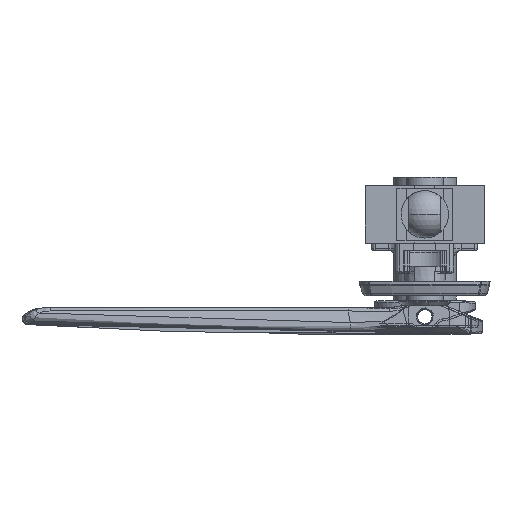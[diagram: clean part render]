
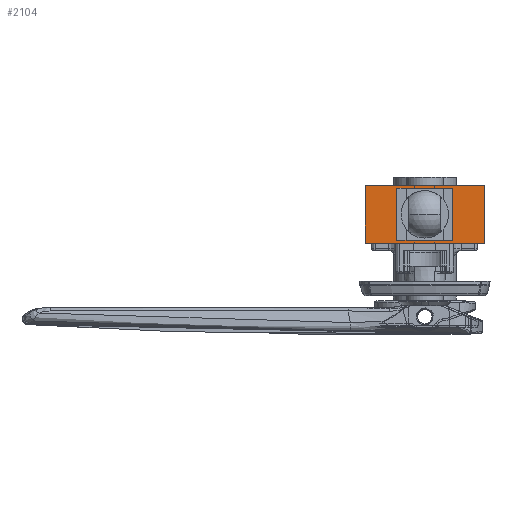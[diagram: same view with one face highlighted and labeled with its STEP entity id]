
A CAD part, front view. The second image highlights one B-rep face of the part: STEP entity #2104.
In plain terms, the highlighted planar face has unit normal (0, -1, 0).
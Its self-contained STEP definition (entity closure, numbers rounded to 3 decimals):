
#462 = FACE_BOUND ( 'NONE', #10740, .T. ) ;
#561 = AXIS2_PLACEMENT_3D ( 'NONE', #5912, #31136, #31459 ) ;
#2104 = ADVANCED_FACE ( 'NONE', ( #462, #8448 ), #13700, .F. ) ;
#2536 = VERTEX_POINT ( 'NONE', #6520 ) ;
#2925 = ORIENTED_EDGE ( 'NONE', *, *, #22070, .T. ) ;
#4205 = VECTOR ( 'NONE', #17920, 1000. ) ;
#4421 = CARTESIAN_POINT ( 'NONE',  ( 7., -199.25, 6.25 ) ) ;
#4612 = ORIENTED_EDGE ( 'NONE', *, *, #13247, .F. ) ;
#4625 = CARTESIAN_POINT ( 'NONE',  ( 7., -199.25, -6.25 ) ) ;
#5912 = CARTESIAN_POINT ( 'NONE',  ( -16., -199.25, 7.75 ) ) ;
#6069 = LINE ( 'NONE', #32489, #14794 ) ;
#6389 = CARTESIAN_POINT ( 'NONE',  ( 16., -199.25, -7.75 ) ) ;
#6520 = CARTESIAN_POINT ( 'NONE',  ( -7., -199.25, 6.25 ) ) ;
#7224 = LINE ( 'NONE', #27389, #32899 ) ;
#7526 = EDGE_CURVE ( 'NONE', #24038, #8666, #30482, .T. ) ;
#7958 = DIRECTION ( 'NONE',  ( -1., 0., 0. ) ) ;
#8176 = VERTEX_POINT ( 'NONE', #6389 ) ;
#8208 = VERTEX_POINT ( 'NONE', #14674 ) ;
#8448 = FACE_OUTER_BOUND ( 'NONE', #15889, .T. ) ;
#8666 = VERTEX_POINT ( 'NONE', #11620 ) ;
#8867 = LINE ( 'NONE', #29533, #23478 ) ;
#8961 = CARTESIAN_POINT ( 'NONE',  ( 7., -199.25, 6.25 ) ) ;
#9397 = VECTOR ( 'NONE', #17797, 1000. ) ;
#9589 = DIRECTION ( 'NONE',  ( 0., 0., -1. ) ) ;
#9656 = CARTESIAN_POINT ( 'NONE',  ( -16., -199.25, 7.75 ) ) ;
#10740 = EDGE_LOOP ( 'NONE', ( #23342, #32326, #30266, #30577 ) ) ;
#11620 = CARTESIAN_POINT ( 'NONE',  ( 16., -199.25, 7.75 ) ) ;
#12837 = LINE ( 'NONE', #23194, #4205 ) ;
#13247 = EDGE_CURVE ( 'NONE', #8666, #8176, #6069, .T. ) ;
#13700 = PLANE ( 'NONE',  #561 ) ;
#13945 = EDGE_CURVE ( 'NONE', #2536, #8208, #8867, .T. ) ;
#14674 = CARTESIAN_POINT ( 'NONE',  ( -7., -199.25, -6.25 ) ) ;
#14794 = VECTOR ( 'NONE', #16572, 1000. ) ;
#14860 = EDGE_CURVE ( 'NONE', #21861, #2536, #31157, .T. ) ;
#15506 = EDGE_CURVE ( 'NONE', #8208, #22583, #20336, .T. ) ;
#15889 = EDGE_LOOP ( 'NONE', ( #2925, #4612, #27190, #19854 ) ) ;
#16572 = DIRECTION ( 'NONE',  ( 0., 0., -1. ) ) ;
#17156 = DIRECTION ( 'NONE',  ( 0., 0., 1. ) ) ;
#17797 = DIRECTION ( 'NONE',  ( 1., 0., 0. ) ) ;
#17920 = DIRECTION ( 'NONE',  ( 1., 0., 0. ) ) ;
#19854 = ORIENTED_EDGE ( 'NONE', *, *, #22355, .T. ) ;
#19868 = LINE ( 'NONE', #4421, #20433 ) ;
#20224 = EDGE_CURVE ( 'NONE', #22583, #21861, #19868, .T. ) ;
#20336 = LINE ( 'NONE', #30176, #9397 ) ;
#20433 = VECTOR ( 'NONE', #17156, 1000. ) ;
#21861 = VERTEX_POINT ( 'NONE', #8961 ) ;
#22070 = EDGE_CURVE ( 'NONE', #27802, #8176, #12837, .T. ) ;
#22355 = EDGE_CURVE ( 'NONE', #24038, #27802, #7224, .T. ) ;
#22583 = VERTEX_POINT ( 'NONE', #4625 ) ;
#23194 = CARTESIAN_POINT ( 'NONE',  ( -16., -199.25, -7.75 ) ) ;
#23342 = ORIENTED_EDGE ( 'NONE', *, *, #13945, .F. ) ;
#23478 = VECTOR ( 'NONE', #26982, 1000. ) ;
#23560 = VECTOR ( 'NONE', #27937, 1000. ) ;
#24038 = VERTEX_POINT ( 'NONE', #31693 ) ;
#26982 = DIRECTION ( 'NONE',  ( 0., 0., -1. ) ) ;
#27190 = ORIENTED_EDGE ( 'NONE', *, *, #7526, .F. ) ;
#27389 = CARTESIAN_POINT ( 'NONE',  ( -16., -199.25, 7.75 ) ) ;
#27802 = VERTEX_POINT ( 'NONE', #32936 ) ;
#27937 = DIRECTION ( 'NONE',  ( 1., 0., 0. ) ) ;
#29533 = CARTESIAN_POINT ( 'NONE',  ( -7., -199.25, -6.25 ) ) ;
#30176 = CARTESIAN_POINT ( 'NONE',  ( -7., -199.25, -6.25 ) ) ;
#30266 = ORIENTED_EDGE ( 'NONE', *, *, #20224, .F. ) ;
#30482 = LINE ( 'NONE', #9656, #23560 ) ;
#30577 = ORIENTED_EDGE ( 'NONE', *, *, #15506, .F. ) ;
#31136 = DIRECTION ( 'NONE',  ( 0., 1., 0. ) ) ;
#31157 = LINE ( 'NONE', #33061, #32065 ) ;
#31459 = DIRECTION ( 'NONE',  ( 0., 0., 1. ) ) ;
#31693 = CARTESIAN_POINT ( 'NONE',  ( -16., -199.25, 7.75 ) ) ;
#32065 = VECTOR ( 'NONE', #7958, 1000. ) ;
#32326 = ORIENTED_EDGE ( 'NONE', *, *, #14860, .F. ) ;
#32489 = CARTESIAN_POINT ( 'NONE',  ( 16., -199.25, 7.75 ) ) ;
#32899 = VECTOR ( 'NONE', #9589, 1000. ) ;
#32936 = CARTESIAN_POINT ( 'NONE',  ( -16., -199.25, -7.75 ) ) ;
#33061 = CARTESIAN_POINT ( 'NONE',  ( 7., -199.25, 6.25 ) ) ;
